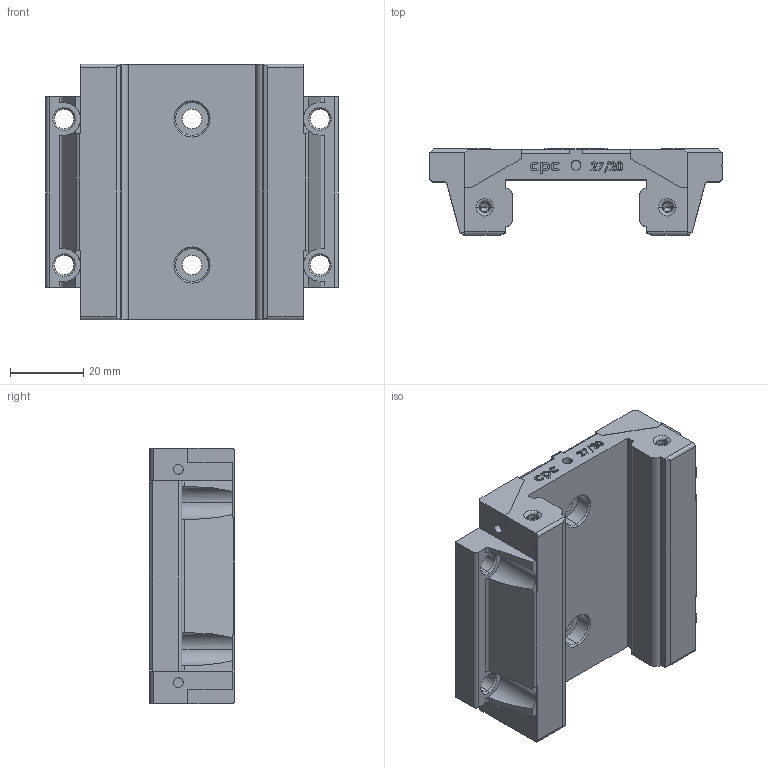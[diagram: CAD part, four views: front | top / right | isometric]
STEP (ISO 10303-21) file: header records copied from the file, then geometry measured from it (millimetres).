
FILE_DESCRIPTION (( 'STEP AP214' ), '1' );
FILE_NAME ('WRC27-20FN-block.STEP', '2015-12-01T05:31:26', ( 'T1000-WGZ02' ), ( '' ), 'SwSTEP 2.0', 'SolidWorks 2010', '' );
FILE_SCHEMA (( 'AUTOMOTIVE_DESIGN' ));
Length unit declared in the file: millimetre
Products named in the file (1): WRC27-20FN-block
Bounding box: 80 x 23.5 x 70 mm (x, y, z)
Volume: 71405.2 mm3; surface area: 19370.5 mm2
Topology: 1 solids, 1 shells, 453 faces, 1193 edges, 774 vertices
Faces by surface type: plane 227, cylinder 94, bspline 92, cone 32, torus 8
Entity records: 22585 total; most frequent: CARTESIAN_POINT 11525, ORIENTED_EDGE 2370, DIRECTION 1921, EDGE_CURVE 1185, VERTEX_POINT 774, VECTOR 757, LINE 757, AXIS2_PLACEMENT_3D 582
